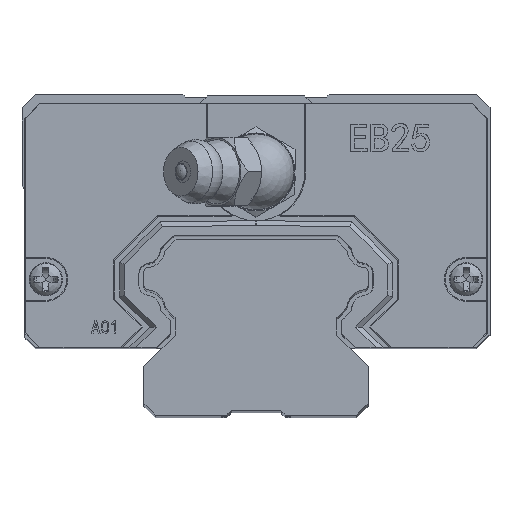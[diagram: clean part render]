
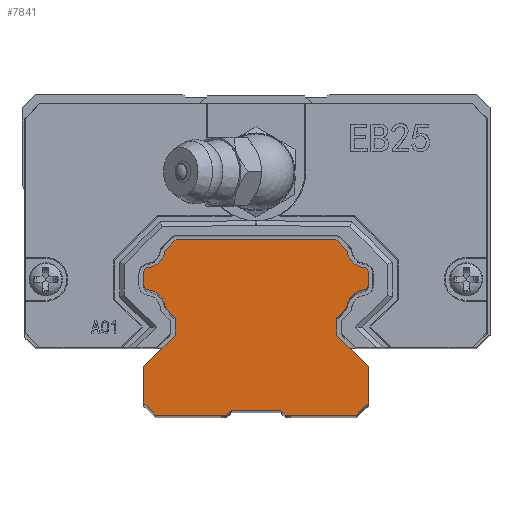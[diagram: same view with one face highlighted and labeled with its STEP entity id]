
A CAD part, top view. The second image highlights one B-rep face of the part: STEP entity #7841.
In plain terms, the highlighted planar face has unit normal (0, 0, 1).
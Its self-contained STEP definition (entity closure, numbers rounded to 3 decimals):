
#7417=CIRCLE('',#23759,2.);
#7419=CIRCLE('',#23762,0.5);
#7421=CIRCLE('',#23766,0.5);
#7423=CIRCLE('',#23769,2.);
#7431=CIRCLE('',#23781,2.);
#7433=CIRCLE('',#23784,0.5);
#7435=CIRCLE('',#23788,0.5);
#7437=CIRCLE('',#23791,2.);
#7841=ADVANCED_FACE('',(#9326),#8794,.T.);
#8794=PLANE('',#23798);
#9326=FACE_OUTER_BOUND('',#10207,.T.);
#10207=EDGE_LOOP('',(#11405,#11406,#11407,#11408,#11409,#11410,#11411,#11412,
#11413,#11414,#11415,#11416,#11417,#11418,#11419,#11420,#11421,#11422,#11423,
#11424,#11425,#11426,#11427,#11428,#11429,#11430,#11431,#11432));
#11405=ORIENTED_EDGE('',*,*,#18134,.F.);
#11406=ORIENTED_EDGE('',*,*,#18130,.F.);
#11407=ORIENTED_EDGE('',*,*,#18121,.T.);
#11408=ORIENTED_EDGE('',*,*,#18118,.F.);
#11409=ORIENTED_EDGE('',*,*,#18115,.F.);
#11410=ORIENTED_EDGE('',*,*,#18111,.F.);
#11411=ORIENTED_EDGE('',*,*,#18106,.T.);
#11412=ORIENTED_EDGE('',*,*,#18101,.F.);
#11413=ORIENTED_EDGE('',*,*,#18096,.F.);
#11414=ORIENTED_EDGE('',*,*,#18092,.F.);
#11415=ORIENTED_EDGE('',*,*,#18089,.T.);
#11416=ORIENTED_EDGE('',*,*,#18086,.F.);
#11417=ORIENTED_EDGE('',*,*,#18174,.T.);
#11418=ORIENTED_EDGE('',*,*,#18175,.F.);
#11419=ORIENTED_EDGE('',*,*,#18176,.T.);
#11420=ORIENTED_EDGE('',*,*,#18177,.F.);
#11421=ORIENTED_EDGE('',*,*,#18178,.T.);
#11422=ORIENTED_EDGE('',*,*,#18179,.F.);
#11423=ORIENTED_EDGE('',*,*,#18180,.T.);
#11424=ORIENTED_EDGE('',*,*,#18181,.F.);
#11425=ORIENTED_EDGE('',*,*,#18182,.T.);
#11426=ORIENTED_EDGE('',*,*,#18161,.F.);
#11427=ORIENTED_EDGE('',*,*,#18159,.T.);
#11428=ORIENTED_EDGE('',*,*,#18156,.F.);
#11429=ORIENTED_EDGE('',*,*,#18153,.F.);
#11430=ORIENTED_EDGE('',*,*,#18149,.F.);
#11431=ORIENTED_EDGE('',*,*,#18144,.T.);
#11432=ORIENTED_EDGE('',*,*,#18139,.F.);
#16385=VERTEX_POINT('',#29107);
#16386=VERTEX_POINT('',#29109);
#16388=VERTEX_POINT('',#29115);
#16390=VERTEX_POINT('',#29121);
#16393=VERTEX_POINT('',#29129);
#16397=VERTEX_POINT('',#29139);
#16401=VERTEX_POINT('',#29149);
#16405=VERTEX_POINT('',#29159);
#16408=VERTEX_POINT('',#29167);
#16410=VERTEX_POINT('',#29173);
#16412=VERTEX_POINT('',#29179);
#16420=VERTEX_POINT('',#29197);
#16423=VERTEX_POINT('',#29205);
#16427=VERTEX_POINT('',#29215);
#16431=VERTEX_POINT('',#29225);
#16435=VERTEX_POINT('',#29235);
#16438=VERTEX_POINT('',#29243);
#16440=VERTEX_POINT('',#29249);
#16442=VERTEX_POINT('',#29255);
#16443=VERTEX_POINT('',#29259);
#16453=VERTEX_POINT('',#29283);
#16454=VERTEX_POINT('',#29287);
#16455=VERTEX_POINT('',#29289);
#16456=VERTEX_POINT('',#29291);
#16457=VERTEX_POINT('',#29293);
#16458=VERTEX_POINT('',#29295);
#16459=VERTEX_POINT('',#29297);
#16460=VERTEX_POINT('',#29299);
#18086=EDGE_CURVE('',#16385,#16386,#20648,.T.);
#18089=EDGE_CURVE('',#16388,#16386,#20651,.T.);
#18092=EDGE_CURVE('',#16388,#16390,#20654,.T.);
#18096=EDGE_CURVE('',#16390,#16393,#7417,.T.);
#18101=EDGE_CURVE('',#16393,#16397,#7419,.T.);
#18106=EDGE_CURVE('',#16401,#16397,#20664,.T.);
#18111=EDGE_CURVE('',#16401,#16405,#7421,.T.);
#18115=EDGE_CURVE('',#16405,#16408,#7423,.T.);
#18118=EDGE_CURVE('',#16408,#16410,#20672,.T.);
#18121=EDGE_CURVE('',#16412,#16410,#20675,.T.);
#18130=EDGE_CURVE('',#16412,#16420,#20678,.T.);
#18134=EDGE_CURVE('',#16420,#16423,#7431,.T.);
#18139=EDGE_CURVE('',#16423,#16427,#7433,.T.);
#18144=EDGE_CURVE('',#16431,#16427,#20688,.T.);
#18149=EDGE_CURVE('',#16431,#16435,#7435,.T.);
#18153=EDGE_CURVE('',#16435,#16438,#7437,.T.);
#18156=EDGE_CURVE('',#16438,#16440,#20696,.T.);
#18159=EDGE_CURVE('',#16442,#16440,#20699,.T.);
#18161=EDGE_CURVE('',#16442,#16443,#20701,.T.);
#18174=EDGE_CURVE('',#16385,#16453,#20714,.T.);
#18175=EDGE_CURVE('',#16454,#16453,#20715,.T.);
#18176=EDGE_CURVE('',#16454,#16455,#20716,.T.);
#18177=EDGE_CURVE('',#16456,#16455,#20717,.T.);
#18178=EDGE_CURVE('',#16456,#16457,#20718,.T.);
#18179=EDGE_CURVE('',#16458,#16457,#20719,.T.);
#18180=EDGE_CURVE('',#16458,#16459,#20720,.T.);
#18181=EDGE_CURVE('',#16460,#16459,#20721,.T.);
#18182=EDGE_CURVE('',#16460,#16443,#20722,.T.);
#20648=LINE('',#29108,#22137);
#20651=LINE('',#29114,#22140);
#20654=LINE('',#29120,#22143);
#20664=LINE('',#29148,#22153);
#20672=LINE('',#29172,#22161);
#20675=LINE('',#29178,#22164);
#20678=LINE('',#29196,#22167);
#20688=LINE('',#29224,#22177);
#20696=LINE('',#29248,#22185);
#20699=LINE('',#29254,#22188);
#20701=LINE('',#29258,#22190);
#20714=LINE('',#29284,#22203);
#20715=LINE('',#29286,#22204);
#20716=LINE('',#29288,#22205);
#20717=LINE('',#29290,#22206);
#20718=LINE('',#29292,#22207);
#20719=LINE('',#29294,#22208);
#20720=LINE('',#29296,#22209);
#20721=LINE('',#29298,#22210);
#20722=LINE('',#29300,#22211);
#22137=VECTOR('',#25001,1.);
#22140=VECTOR('',#25006,1.);
#22143=VECTOR('',#25011,1.);
#22153=VECTOR('',#25035,1.);
#22161=VECTOR('',#25057,1.);
#22164=VECTOR('',#25062,1.);
#22167=VECTOR('',#25079,1.);
#22177=VECTOR('',#25103,1.);
#22185=VECTOR('',#25125,1.);
#22188=VECTOR('',#25130,1.);
#22190=VECTOR('',#25134,1.);
#22203=VECTOR('',#25151,1.);
#22204=VECTOR('',#25154,1.);
#22205=VECTOR('',#25155,1.);
#22206=VECTOR('',#25156,1.);
#22207=VECTOR('',#25157,1.);
#22208=VECTOR('',#25158,1.);
#22209=VECTOR('',#25159,1.);
#22210=VECTOR('',#25160,1.);
#22211=VECTOR('',#25161,1.);
#23759=AXIS2_PLACEMENT_3D('',#29128,#25018,#25019);
#23762=AXIS2_PLACEMENT_3D('',#29138,#25027,#25028);
#23766=AXIS2_PLACEMENT_3D('',#29158,#25043,#25044);
#23769=AXIS2_PLACEMENT_3D('',#29166,#25051,#25052);
#23781=AXIS2_PLACEMENT_3D('',#29204,#25086,#25087);
#23784=AXIS2_PLACEMENT_3D('',#29214,#25095,#25096);
#23788=AXIS2_PLACEMENT_3D('',#29234,#25111,#25112);
#23791=AXIS2_PLACEMENT_3D('',#29242,#25119,#25120);
#23798=AXIS2_PLACEMENT_3D('',#29301,#25162,#25163);
#25001=DIRECTION('',(0.707,0.707,0.));
#25006=DIRECTION('',(0.,-1.,0.));
#25011=DIRECTION('',(-0.707,0.707,0.));
#25018=DIRECTION('',(0.,0.,1.));
#25019=DIRECTION('',(0.998,0.07,0.));
#25027=DIRECTION('',(0.,0.,-1.));
#25028=DIRECTION('',(-0.12,-0.993,0.));
#25035=DIRECTION('',(0.,-1.,0.));
#25043=DIRECTION('',(0.,0.,-1.));
#25044=DIRECTION('',(-1.,0.,0.));
#25051=DIRECTION('',(0.,0.,1.));
#25052=DIRECTION('',(0.12,-0.993,0.));
#25057=DIRECTION('',(0.707,0.707,0.));
#25062=DIRECTION('',(-1.,0.,0.));
#25079=DIRECTION('',(0.707,-0.707,0.));
#25086=DIRECTION('',(0.,0.,1.));
#25087=DIRECTION('',(-0.993,-0.118,0.));
#25095=DIRECTION('',(0.,0.,-1.));
#25096=DIRECTION('',(0.12,0.993,0.));
#25103=DIRECTION('',(0.,1.,0.));
#25111=DIRECTION('',(0.,0.,-1.));
#25112=DIRECTION('',(1.,0.,0.));
#25119=DIRECTION('',(0.,0.,1.));
#25120=DIRECTION('',(-0.12,0.993,0.));
#25125=DIRECTION('',(-0.707,-0.707,0.));
#25130=DIRECTION('',(0.,1.,0.));
#25134=DIRECTION('',(0.707,-0.707,0.));
#25151=DIRECTION('',(0.,-1.,0.));
#25154=DIRECTION('',(-0.707,0.707,0.));
#25155=DIRECTION('',(1.,0.,0.));
#25156=DIRECTION('',(-0.707,-0.707,0.));
#25157=DIRECTION('',(1.,0.,0.));
#25158=DIRECTION('',(-0.707,0.707,0.));
#25159=DIRECTION('',(1.,0.,0.));
#25160=DIRECTION('',(-0.707,-0.707,0.));
#25161=DIRECTION('',(0.,1.,0.));
#25162=DIRECTION('',(0.,0.,1.));
#25163=DIRECTION('',(1.,0.,0.));
#29107=CARTESIAN_POINT('',(-11.5,-13.,60.));
#29108=CARTESIAN_POINT('',(-11.5,-13.,60.));
#29109=CARTESIAN_POINT('',(-8.3,-9.8,60.));
#29114=CARTESIAN_POINT('',(-8.3,-8.,60.));
#29115=CARTESIAN_POINT('',(-8.3,-8.,60.));
#29120=CARTESIAN_POINT('',(-8.3,-8.,60.));
#29121=CARTESIAN_POINT('',(-9.305,-6.995,60.));
#29128=CARTESIAN_POINT('',(-11.3,-7.136,60.));
#29129=CARTESIAN_POINT('',(-11.06,-5.15,60.));
#29138=CARTESIAN_POINT('',(-11.,-4.654,60.));
#29139=CARTESIAN_POINT('',(-11.5,-4.654,60.));
#29148=CARTESIAN_POINT('',(-11.5,-3.365,60.));
#29149=CARTESIAN_POINT('',(-11.5,-3.365,60.));
#29158=CARTESIAN_POINT('',(-11.,-3.365,60.));
#29159=CARTESIAN_POINT('',(-11.06,-2.868,60.));
#29166=CARTESIAN_POINT('',(-11.3,-0.883,60.));
#29167=CARTESIAN_POINT('',(-9.314,-1.118,60.));
#29172=CARTESIAN_POINT('',(-9.314,-1.118,60.));
#29173=CARTESIAN_POINT('',(-8.196,0.,60.));
#29178=CARTESIAN_POINT('',(8.196,0.,60.));
#29179=CARTESIAN_POINT('',(8.196,0.,60.));
#29196=CARTESIAN_POINT('',(8.196,0.,60.));
#29197=CARTESIAN_POINT('',(9.314,-1.118,60.));
#29204=CARTESIAN_POINT('',(11.3,-0.883,60.));
#29205=CARTESIAN_POINT('',(11.06,-2.868,60.));
#29214=CARTESIAN_POINT('',(11.,-3.365,60.));
#29215=CARTESIAN_POINT('',(11.5,-3.365,60.));
#29224=CARTESIAN_POINT('',(11.5,-4.654,60.));
#29225=CARTESIAN_POINT('',(11.5,-4.654,60.));
#29234=CARTESIAN_POINT('',(11.,-4.654,60.));
#29235=CARTESIAN_POINT('',(11.06,-5.15,60.));
#29242=CARTESIAN_POINT('',(11.3,-7.136,60.));
#29243=CARTESIAN_POINT('',(9.305,-6.995,60.));
#29248=CARTESIAN_POINT('',(9.305,-6.995,60.));
#29249=CARTESIAN_POINT('',(8.3,-8.,60.));
#29254=CARTESIAN_POINT('',(8.3,-9.8,60.));
#29255=CARTESIAN_POINT('',(8.3,-9.8,60.));
#29258=CARTESIAN_POINT('',(8.3,-9.8,60.));
#29259=CARTESIAN_POINT('',(11.5,-13.,60.));
#29283=CARTESIAN_POINT('',(-11.5,-16.8,60.));
#29284=CARTESIAN_POINT('',(-11.5,-13.,60.));
#29286=CARTESIAN_POINT('',(-10.3,-18.,60.));
#29287=CARTESIAN_POINT('',(-10.3,-18.,60.));
#29288=CARTESIAN_POINT('',(-10.3,-18.,60.));
#29289=CARTESIAN_POINT('',(-3.,-18.,60.));
#29290=CARTESIAN_POINT('',(-2.5,-17.5,60.));
#29291=CARTESIAN_POINT('',(-2.5,-17.5,60.));
#29292=CARTESIAN_POINT('',(-2.5,-17.5,60.));
#29293=CARTESIAN_POINT('',(2.5,-17.5,60.));
#29294=CARTESIAN_POINT('',(3.,-18.,60.));
#29295=CARTESIAN_POINT('',(3.,-18.,60.));
#29296=CARTESIAN_POINT('',(3.,-18.,60.));
#29297=CARTESIAN_POINT('',(10.3,-18.,60.));
#29298=CARTESIAN_POINT('',(11.5,-16.8,60.));
#29299=CARTESIAN_POINT('',(11.5,-16.8,60.));
#29300=CARTESIAN_POINT('',(11.5,-16.8,60.));
#29301=CARTESIAN_POINT('',(-36.5,15.,60.));
